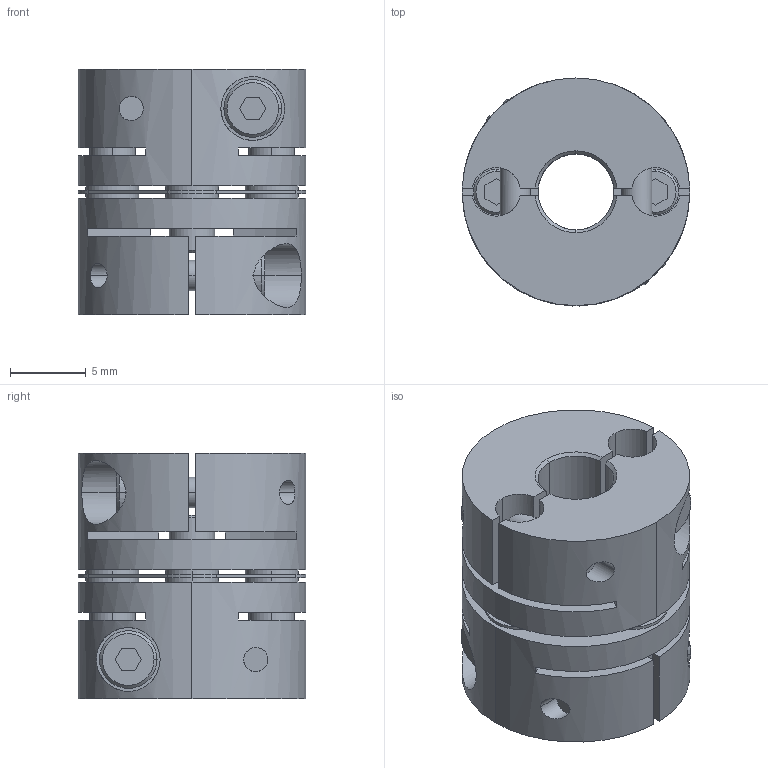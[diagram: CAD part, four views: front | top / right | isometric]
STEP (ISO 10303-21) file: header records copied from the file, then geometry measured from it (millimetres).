
FILE_DESCRIPTION((''),'2;1');
FILE_NAME('LAS-15C-5×6.stp','2016-04-21T12:34:52',(''),(''),'AutoCAD STEP 2000i','AutoCAD 2000i',', , ');
FILE_SCHEMA(('CONFIG_CONTROL_DESIGN'));
Length unit declared in the file: millimetre
Products named in the file (6): LAS-15C-3×6; 忣兜1; LA-1502-D06; LA-1502-D03-1; LA-1502-D03; LAS15-ITA
Assembly tree (5 placements, depth 2):
  LAS-15C-3×6
    忣兜1
    LA-1502-D06
    LA-1502-D03-1
    LA-1502-D03
    LAS15-ITA
Bounding box: 15 x 15 x 16.2 mm (x, y, z)
Volume: 2056.2 mm3; surface area: 2663.8 mm2
Topology: 1 solids, 1 shells, 236 faces, 624 edges, 408 vertices
Faces by surface type: plane 112, cylinder 96, cone 28
Entity records: 8169 total; most frequent: CARTESIAN_POINT 1962, DIRECTION 1304, ORIENTED_EDGE 1248, EDGE_CURVE 624, AXIS2_PLACEMENT_3D 478, VERTEX_POINT 408, VECTOR 348, LINE 348
